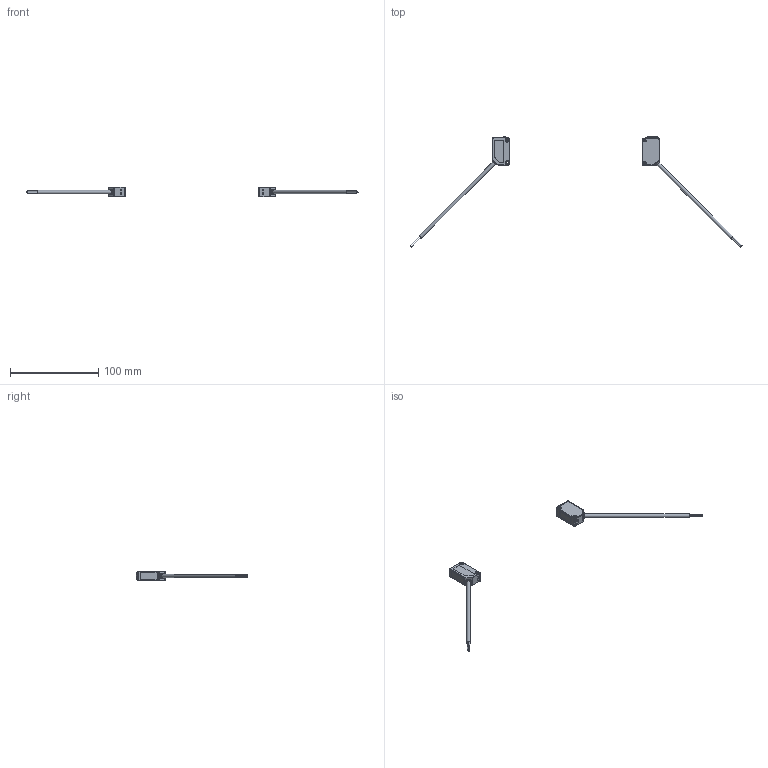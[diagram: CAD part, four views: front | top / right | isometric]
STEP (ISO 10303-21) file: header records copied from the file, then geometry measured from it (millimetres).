
FILE_DESCRIPTION(/* description */ (''),/* implementation_level */ '2;1');
FILE_NAME(/* name */ 'C:\Users\HYF-ID009\Desktop\2021_3D\02)光电传感器_3D\02-06)ES201_3D\ES201_T.stp',/* time_stamp */ '2021-05-08T20:31:07+08:00',/* author */ ('HYF-ID009'),/* organization */ (''),/* preprocessor_version */ 'ST-DEVELOPER v16.5',/* originating_system */ 'Autodesk Inventor 2017',/* authorisation */ '');
FILE_SCHEMA (('AUTOMOTIVE_DESIGN { 1 0 10303 214 3 1 1 }'));
Length unit declared in the file: millimetre
Products named in the file (3): 部件1; 01）ES201_D_TJ_R_3D; 02）ES201_TF_3D
Assembly tree (2 placements, depth 2):
  部件1
    01）ES201_D_TJ_R_3D
    02）ES201_TF_3D
Bounding box: 376.54 x 125.96 x 11 mm (x, y, z)
Volume: 15116.7 mm3; surface area: 12382.3 mm2
Topology: 2 solids, 12 shells, 1020 faces, 3337 edges, 2146 vertices
Faces by surface type: plane 450, cylinder 445, torus 61, bspline 60, sphere 4
Full cylindrical faces by diameter (mm): 1 x6, 3 x4, 3.42 x4, 3.5 x76, 3.55 x3, 3.8 x2, 4 x6, 4.2 x4, 4.5 x2, 6.8 x2
Entity records: 62519 total; most frequent: CARTESIAN_POINT 33102, DIRECTION 6252, ORIENTED_EDGE 6066, EDGE_CURVE 3033, AXIS2_PLACEMENT_3D 2442, VERTEX_POINT 1972, CIRCLE 1545, LINE 1368
